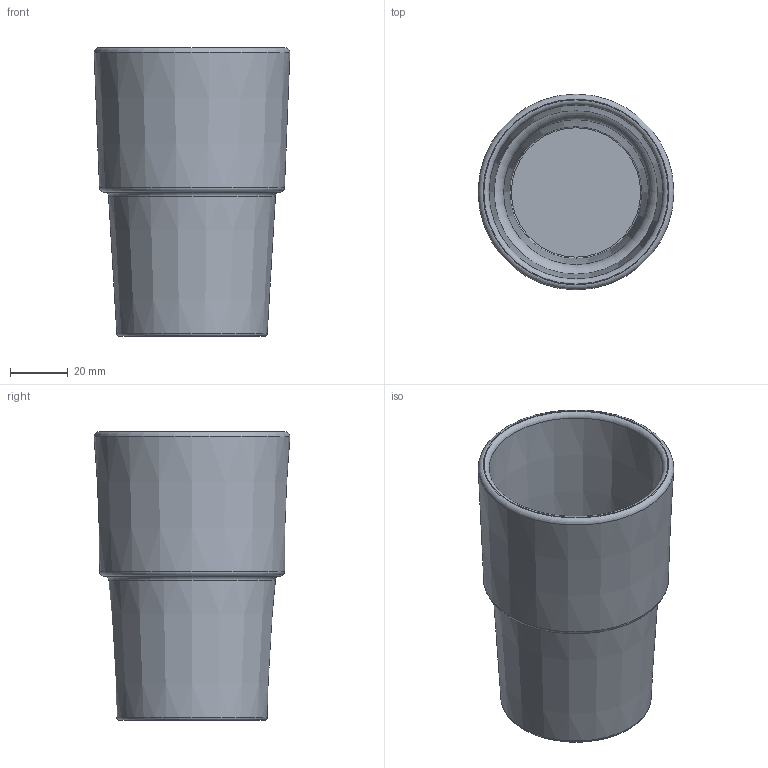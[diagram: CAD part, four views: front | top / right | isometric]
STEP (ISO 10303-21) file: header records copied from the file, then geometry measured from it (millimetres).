
FILE_DESCRIPTION(/* description */ ('Unknown'),/* implementation_level */ '2;1');
FILE_NAME(/* name */ '032 031 00 Szklanka',/* time_stamp */ '2023-04-17T14:50:43+02:00',/* author */ ('Unknown'),/* organization */ ('Unknown'),/* preprocessor_version */ 'ST-DEVELOPER v18.102',/* originating_system */ 'Solid Edge',/* authorisation */ 'Unknown');
FILE_SCHEMA (('AUTOMOTIVE_DESIGN {1 0 10303 214 3 1 1}'));
Length unit declared in the file: millimetre
Products named in the file (1): 032 031 00 Szklanka
Bounding box: 67.85 x 67.85 x 100 mm (x, y, z)
Volume: 83843.3 mm3; surface area: 38918.1 mm2
Topology: 1 solids, 1 shells, 19 faces, 37 edges, 23 vertices
Faces by surface type: torus 9, plane 5, cone 4, cylinder 1
Full cylindrical faces by diameter (mm): 35 x1
Entity records: 406 total; most frequent: DIRECTION 76, CARTESIAN_POINT 56, AXIS2_PLACEMENT_3D 38, ORIENTED_EDGE 36, EDGE_LOOP 36, FACE_BOUND 36, ADVANCED_FACE 19, EDGE_CURVE 18
